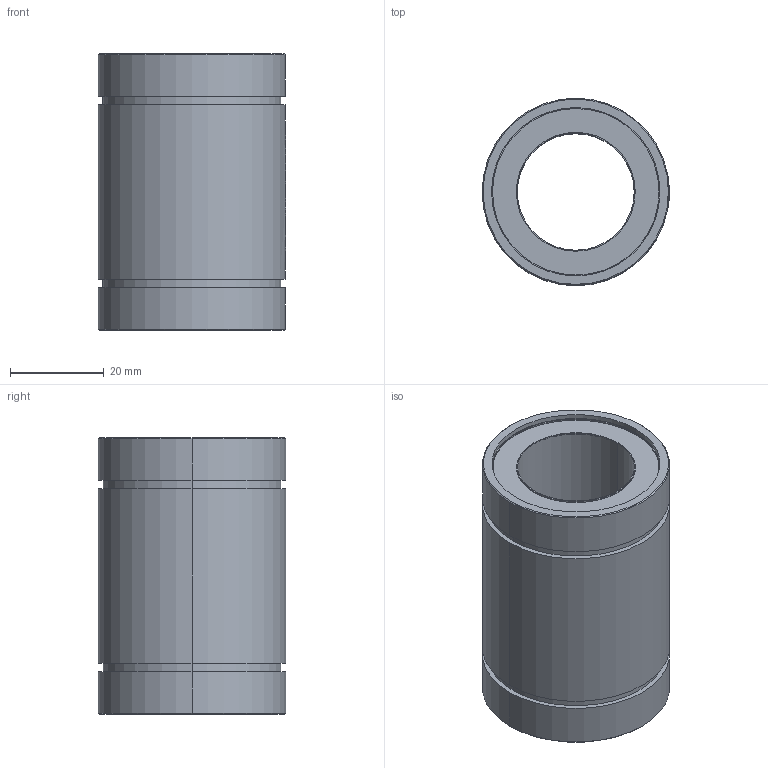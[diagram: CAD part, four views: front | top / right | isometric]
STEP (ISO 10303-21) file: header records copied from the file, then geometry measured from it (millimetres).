
FILE_DESCRIPTION (( 'STEP AP214' ), '1' );
FILE_NAME ('LM25UU.STEP', '2020-09-22T11:27:16', ( '' ), ( '' ), 'SwSTEP 2.0', 'SolidWorks 2018', '' );
FILE_SCHEMA (( 'AUTOMOTIVE_DESIGN' ));
Length unit declared in the file: millimetre
Products named in the file (3): LM25UU-2; LM25UU-1; LM25UU
Assembly tree (2 placements, depth 2):
  LM25UU
    LM25UU-1
    LM25UU-2
Bounding box: 40.1 x 40 x 59 mm (x, y, z)
Volume: 43376.6 mm3; surface area: 27107.5 mm2
Topology: 2 solids, 2 shells, 229 faces, 635 edges, 422 vertices
Faces by surface type: plane 115, cylinder 72, bspline 38, cone 4
Entity records: 11097 total; most frequent: CARTESIAN_POINT 3869, ORIENTED_EDGE 1270, DIRECTION 799, EDGE_CURVE 635, VERTEX_POINT 422, VECTOR 303, LINE 303, AXIS2_PLACEMENT_3D 248
